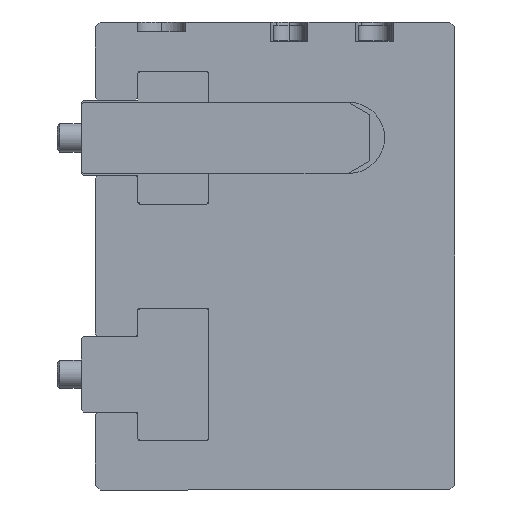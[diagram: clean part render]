
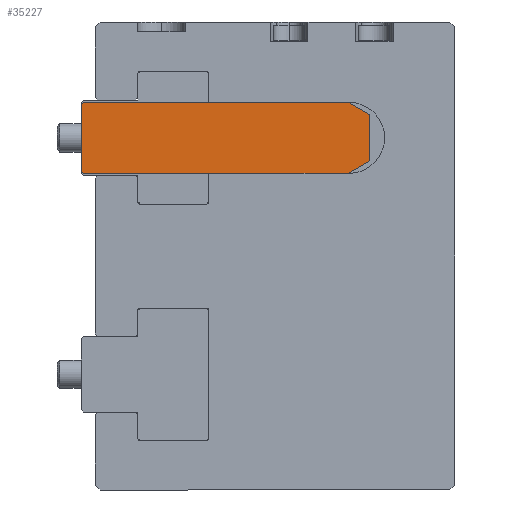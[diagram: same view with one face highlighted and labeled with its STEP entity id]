
A CAD part, left-side view. The second image highlights one B-rep face of the part: STEP entity #35227.
In plain terms, the highlighted planar face has unit normal (-1, 0, 0).
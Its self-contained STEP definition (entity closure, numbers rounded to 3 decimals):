
#277 = CARTESIAN_POINT ( 'NONE',  ( -132., 33.999, 0. ) ) ;
#1391 = VERTEX_POINT ( 'NONE', #11221 ) ;
#2188 = VERTEX_POINT ( 'NONE', #8793 ) ;
#3261 = VERTEX_POINT ( 'NONE', #28474 ) ;
#3517 = EDGE_CURVE ( 'NONE', #1391, #8378, #37083, .T. ) ;
#3994 = VECTOR ( 'NONE', #7028, 1000. ) ;
#5287 = VECTOR ( 'NONE', #11063, 1000. ) ;
#7028 = DIRECTION ( 'NONE',  ( 0., 0.866, 0.5 ) ) ;
#7341 = CARTESIAN_POINT ( 'NONE',  ( -132., 26.999, -7. ) ) ;
#7730 = DIRECTION ( 'NONE',  ( -1., 0., 0. ) ) ;
#8034 = ORIENTED_EDGE ( 'NONE', *, *, #27819, .T. ) ;
#8378 = VERTEX_POINT ( 'NONE', #15844 ) ;
#8793 = CARTESIAN_POINT ( 'NONE',  ( -132., -34., -4.902 ) ) ;
#9221 = DIRECTION ( 'NONE',  ( 0., 1., 0. ) ) ;
#10593 = CARTESIAN_POINT ( 'NONE',  ( -132., -34., 4.902 ) ) ;
#10833 = VERTEX_POINT ( 'NONE', #40946 ) ;
#10999 = ORIENTED_EDGE ( 'NONE', *, *, #12039, .T. ) ;
#11063 = DIRECTION ( 'NONE',  ( 0., -0.707, -0.707 ) ) ;
#11221 = CARTESIAN_POINT ( 'NONE',  ( -132., 26.999, 7. ) ) ;
#11962 = EDGE_CURVE ( 'NONE', #10833, #3261, #43091, .T. ) ;
#12039 = EDGE_CURVE ( 'NONE', #22379, #28487, #33346, .T. ) ;
#15123 = FACE_OUTER_BOUND ( 'NONE', #33404, .T. ) ;
#15844 = CARTESIAN_POINT ( 'NONE',  ( -132., 26.999, -7. ) ) ;
#16787 = CARTESIAN_POINT ( 'NONE',  ( -132., 26.499, 7.5 ) ) ;
#18673 = PLANE ( 'NONE',  #22333 ) ;
#19313 = CARTESIAN_POINT ( 'NONE',  ( -132., 26.999, -7. ) ) ;
#19382 = VECTOR ( 'NONE', #26209, 1000. ) ;
#19386 = ORIENTED_EDGE ( 'NONE', *, *, #11962, .T. ) ;
#20170 = VECTOR ( 'NONE', #29580, 1000. ) ;
#21315 = EDGE_CURVE ( 'NONE', #8378, #10833, #44393, .T. ) ;
#21684 = LINE ( 'NONE', #44465, #19382 ) ;
#22333 = AXIS2_PLACEMENT_3D ( 'NONE', #277, #7730, #33414 ) ;
#22379 = VERTEX_POINT ( 'NONE', #36530 ) ;
#23568 = VERTEX_POINT ( 'NONE', #43405 ) ;
#23623 = VECTOR ( 'NONE', #31622, 1000. ) ;
#26209 = DIRECTION ( 'NONE',  ( 0., -0.866, 0.5 ) ) ;
#27348 = VECTOR ( 'NONE', #44965, 1000. ) ;
#27819 = EDGE_CURVE ( 'NONE', #28487, #23568, #29782, .T. ) ;
#28474 = CARTESIAN_POINT ( 'NONE',  ( -132., -29.5, -7.5 ) ) ;
#28487 = VERTEX_POINT ( 'NONE', #30699 ) ;
#29580 = DIRECTION ( 'NONE',  ( 0., 0., 1. ) ) ;
#29782 = LINE ( 'NONE', #16787, #46950 ) ;
#30267 = EDGE_CURVE ( 'NONE', #3261, #2188, #21684, .T. ) ;
#30699 = CARTESIAN_POINT ( 'NONE',  ( -132., -29.5, 7.5 ) ) ;
#31259 = ORIENTED_EDGE ( 'NONE', *, *, #38642, .T. ) ;
#31622 = DIRECTION ( 'NONE',  ( 0., -1., 0. ) ) ;
#33346 = LINE ( 'NONE', #10593, #3994 ) ;
#33404 = EDGE_LOOP ( 'NONE', ( #41516, #35910, #42844, #19386, #39313, #31259, #10999, #8034 ) ) ;
#33407 = VECTOR ( 'NONE', #46217, 1000. ) ;
#33414 = DIRECTION ( 'NONE',  ( 0., 0., 1. ) ) ;
#35227 = ADVANCED_FACE ( 'NONE', ( #15123 ), #18673, .T. ) ;
#35910 = ORIENTED_EDGE ( 'NONE', *, *, #3517, .T. ) ;
#36530 = CARTESIAN_POINT ( 'NONE',  ( -132., -34., 4.902 ) ) ;
#37083 = LINE ( 'NONE', #19313, #27348 ) ;
#37345 = EDGE_CURVE ( 'NONE', #23568, #1391, #44315, .T. ) ;
#38642 = EDGE_CURVE ( 'NONE', #2188, #22379, #40832, .T. ) ;
#39313 = ORIENTED_EDGE ( 'NONE', *, *, #30267, .T. ) ;
#40486 = CARTESIAN_POINT ( 'NONE',  ( -132., -34., -4.902 ) ) ;
#40832 = LINE ( 'NONE', #40486, #20170 ) ;
#40946 = CARTESIAN_POINT ( 'NONE',  ( -132., 26.499, -7.5 ) ) ;
#41516 = ORIENTED_EDGE ( 'NONE', *, *, #37345, .T. ) ;
#42512 = CARTESIAN_POINT ( 'NONE',  ( -132., 26.999, 7. ) ) ;
#42844 = ORIENTED_EDGE ( 'NONE', *, *, #21315, .T. ) ;
#43091 = LINE ( 'NONE', #46236, #23623 ) ;
#43405 = CARTESIAN_POINT ( 'NONE',  ( -132., 26.499, 7.5 ) ) ;
#44315 = LINE ( 'NONE', #42512, #33407 ) ;
#44393 = LINE ( 'NONE', #7341, #5287 ) ;
#44465 = CARTESIAN_POINT ( 'NONE',  ( -132., -34., -4.902 ) ) ;
#44965 = DIRECTION ( 'NONE',  ( 0., 0., -1. ) ) ;
#46217 = DIRECTION ( 'NONE',  ( 0., 0.707, -0.707 ) ) ;
#46236 = CARTESIAN_POINT ( 'NONE',  ( -132., 26.499, -7.5 ) ) ;
#46950 = VECTOR ( 'NONE', #9221, 1000. ) ;
